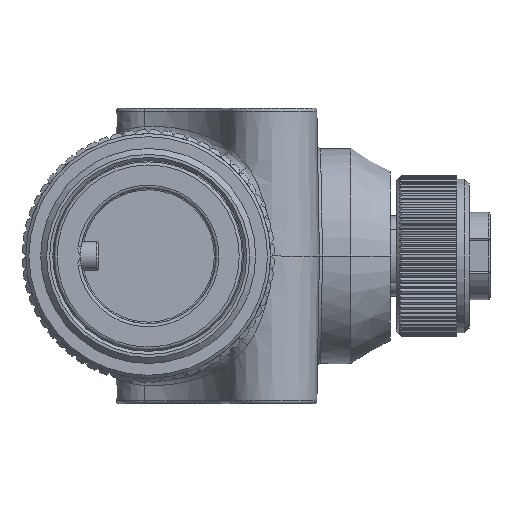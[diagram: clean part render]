
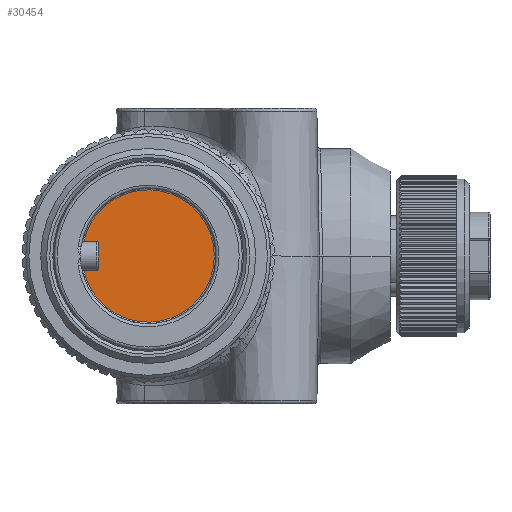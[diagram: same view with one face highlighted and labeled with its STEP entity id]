
A CAD part, left-side view. The second image highlights one B-rep face of the part: STEP entity #30454.
In plain terms, the highlighted planar face has unit normal (-1, 0, 0).
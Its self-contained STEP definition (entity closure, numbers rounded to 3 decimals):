
#751=LINE('',#44036,#3211);
#1618=LINE('',#47443,#4078);
#1619=LINE('',#47445,#4079);
#3211=VECTOR('',#35066,10.);
#4078=VECTOR('',#38763,10.);
#4079=VECTOR('',#38766,10.);
#6765=FACE_OUTER_BOUND('',#8470,.T.);
#8470=EDGE_LOOP('',(#22089,#22090,#22091,#22092,#22093,#22094));
#9631=CIRCLE('',#31620,0.25);
#10413=CIRCLE('',#33037,10.75);
#10414=CIRCLE('',#33038,0.25);
#11259=VERTEX_POINT('',#44023);
#11262=VERTEX_POINT('',#44028);
#11264=VERTEX_POINT('',#44033);
#12387=VERTEX_POINT('',#47439);
#12388=VERTEX_POINT('',#47440);
#12389=VERTEX_POINT('',#47442);
#14211=EDGE_CURVE('',#11262,#11259,#9631,.F.);
#14214=EDGE_CURVE('',#11264,#11259,#751,.T.);
#15895=EDGE_CURVE('',#12387,#12388,#10413,.T.);
#15896=EDGE_CURVE('',#12387,#12389,#1618,.T.);
#15897=EDGE_CURVE('',#11264,#12389,#10414,.F.);
#15898=EDGE_CURVE('',#11262,#12388,#1619,.T.);
#22089=ORIENTED_EDGE('',*,*,#15895,.F.);
#22090=ORIENTED_EDGE('',*,*,#15896,.T.);
#22091=ORIENTED_EDGE('',*,*,#15897,.F.);
#22092=ORIENTED_EDGE('',*,*,#14214,.T.);
#22093=ORIENTED_EDGE('',*,*,#14211,.F.);
#22094=ORIENTED_EDGE('',*,*,#15898,.T.);
#27566=PLANE('',#33036);
#30454=ADVANCED_FACE('',(#6765),#27566,.F.);
#31620=AXIS2_PLACEMENT_3D('',#44030,#35059,#35060);
#33036=AXIS2_PLACEMENT_3D('',#47438,#38759,#38760);
#33037=AXIS2_PLACEMENT_3D('',#47441,#38761,#38762);
#33038=AXIS2_PLACEMENT_3D('',#47444,#38764,#38765);
#35059=DIRECTION('center_axis',(1.,0.,0.));
#35060=DIRECTION('ref_axis',(0.,-0.707,-0.707));
#35066=DIRECTION('',(0.,0.,-1.));
#38759=DIRECTION('center_axis',(1.,0.,0.));
#38760=DIRECTION('ref_axis',(0.,0.,-1.));
#38761=DIRECTION('center_axis',(1.,0.,0.));
#38762=DIRECTION('ref_axis',(0.,-1.,0.));
#38763=DIRECTION('',(0.,-1.,0.));
#38764=DIRECTION('center_axis',(1.,0.,0.));
#38765=DIRECTION('ref_axis',(0.,-0.707,0.707));
#38766=DIRECTION('',(0.,1.,0.));
#44023=CARTESIAN_POINT('',(-48.254,39.1,-2.15));
#44028=CARTESIAN_POINT('',(-48.254,39.35,-2.4));
#44030=CARTESIAN_POINT('Origin',(-48.254,39.35,-2.15));
#44033=CARTESIAN_POINT('',(-48.254,39.1,2.15));
#44036=CARTESIAN_POINT('',(-48.254,39.1,0.));
#47438=CARTESIAN_POINT('Origin',(-48.254,36.5,0.));
#47439=CARTESIAN_POINT('',(-48.254,41.479,2.4));
#47440=CARTESIAN_POINT('',(-48.254,41.479,-2.4));
#47441=CARTESIAN_POINT('Origin',(-48.254,31.,0.));
#47442=CARTESIAN_POINT('',(-48.254,39.35,2.4));
#47443=CARTESIAN_POINT('',(-48.254,37.8,2.4));
#47444=CARTESIAN_POINT('Origin',(-48.254,39.35,2.15));
#47445=CARTESIAN_POINT('',(-48.254,37.8,-2.4));
